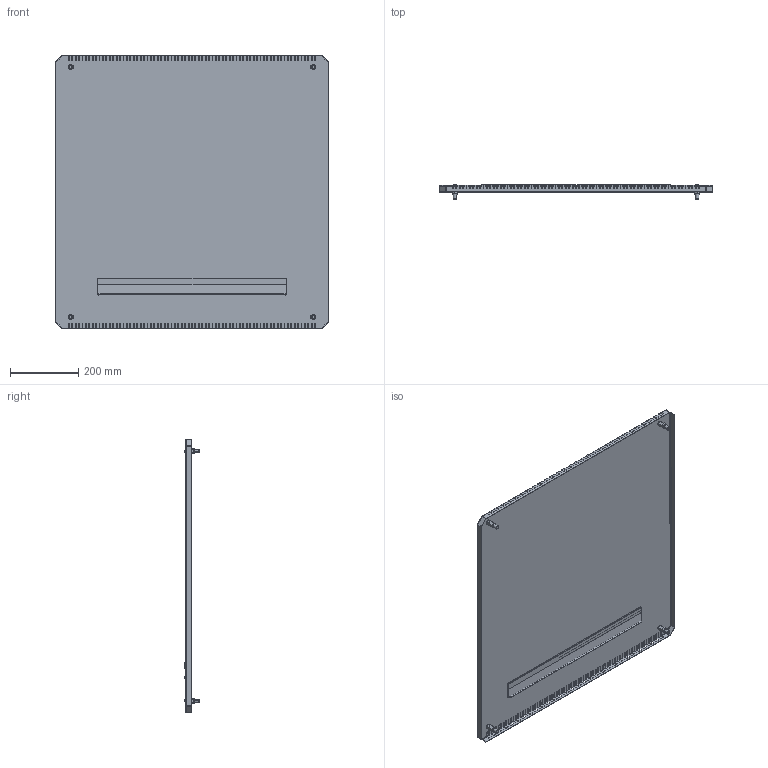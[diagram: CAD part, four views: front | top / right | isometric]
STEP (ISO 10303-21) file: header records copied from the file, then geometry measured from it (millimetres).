
FILE_DESCRIPTION (( 'STEP AP203' ), '1' );
FILE_NAME ('R 80.80 IK Ïàíåëü òåëåêîììóíèêàöèîííàÿ ïîòîëî÷íàÿ ñ ùåò. ââîäîì.STEP', '2013-01-12T09:28:26', ( 'System' ), ( '' ), 'SwSTEP 2.0', 'SolidWorks 2012', '' );
FILE_SCHEMA (( 'CONFIG_CONTROL_DESIGN' ));
Products named in the file (1): R 80.80 IK Ïàíåëü òåëåêîììóíèêàöèîííàÿ ïîòîëî÷íàÿ ñ ùåò. ââîäîì
Bounding box: 800 x 42.72 x 800 mm (x, y, z)
Volume: 991131.4 mm3; surface area: 1433925.6 mm2
Topology: 6 solids, 10 shells, 1784 faces, 4828 edges, 2776 vertices
Faces by surface type: plane 1336, cylinder 352, cone 56, bspline 16, torus 16, sphere 8
Entity records: 55591 total; most frequent: CARTESIAN_POINT 10769, ORIENTED_EDGE 9624, DIRECTION 9040, EDGE_CURVE 4812, VECTOR 3886, LINE 3886, VERTEX_POINT 2776, AXIS2_PLACEMENT_3D 2577
